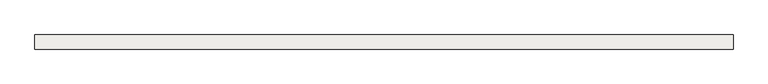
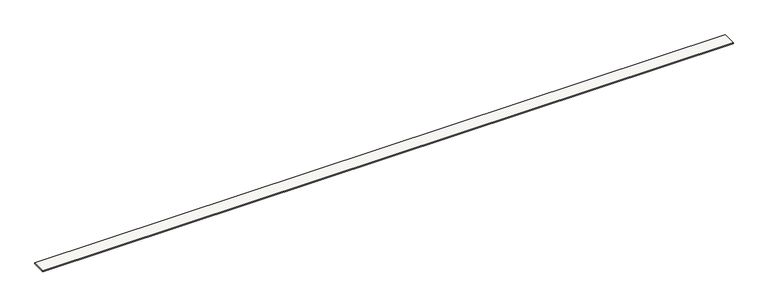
"""IFC4 building model written with IfcOpenShell, lengths in millimetres: slab geometry, Sol-02 - Tablette bois 2cm."""

from ifc_helpers import new_model, si_unit, origin, origin_with_axes, place, context, project, spatial, polyline, outline, extrude, source, transform, mapped, element, save


def slab_111e7a21(model_context):
    return source(origin(), model_context, "Body", "SweptSolid", [
        extrude(outline(polyline([(15820.0, 11011.3446595), (0.0, 11011.3446595), (0.0, 11331.3446595), (15820.0, 11331.3446595), (15820.0, 11011.3446595)])), origin_with_axes(), (0.0, 0.0, 1.0), 20.0),
    ])


if __name__ == "__main__":
    model = new_model("IFC4")
    model_context = context("Model", 3, world=origin())
    ifc_project = project(units=[si_unit("LENGTHUNIT", "METRE", prefix="MILLI")], contexts=[model_context])
    site = spatial("IfcSite", under=ifc_project)
    building = spatial("IfcBuilding", under=site)
    placement = place(None, origin())
    slab_shape = slab_111e7a21(model_context)
    element("IfcSlab", 1, ObjectType="Sol-02 - Tablette bois 2cm", at=placement, inside=building, context=model_context, shape_type="MappedRepresentation", body=[
        mapped(slab_shape, transform((0.0, 0.0, 0.0), x_axis=(1.0, 0.0, 0.0), y_axis=(0.0, 1.0, 0.0), z_axis=(0.0, 0.0, 1.0))),
    ])
    save(model, "model.ifc")
